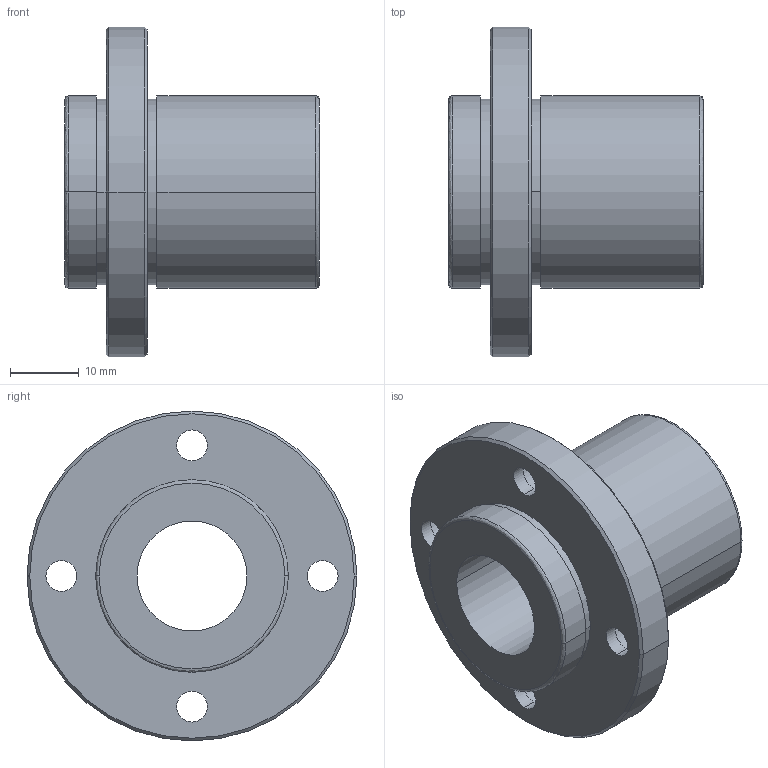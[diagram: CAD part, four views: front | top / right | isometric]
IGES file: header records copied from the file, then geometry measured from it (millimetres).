
Start section: 3D InterOp IGES (Version 21 0 1), Spatial Corp. Copyright (c) 1999-2007.
Global section: file name: NFID-16VUU.igs; native system: Spatial Corp.; preprocessor: 3D InterOp GENERIC/IGES 3.0; author: Noname; organization: Noname; date: 20220308.111857; units: millimetre
Bounding box: 37 x 48 x 48 mm (x, y, z)
Surface area: 9130.1 mm2 (no closed solid volume)
Topology: 0 solids, 0 shells, 46 faces, 204 edges, 204 vertices
Faces by surface type: revolution 36, extrusion 10
